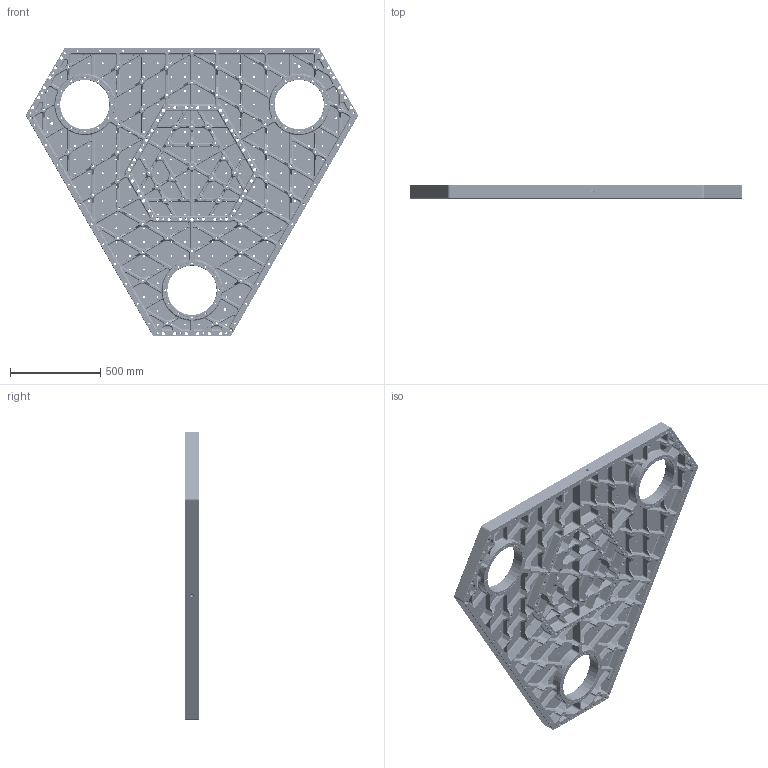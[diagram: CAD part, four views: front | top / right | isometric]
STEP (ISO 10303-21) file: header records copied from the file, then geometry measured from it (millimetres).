
FILE_DESCRIPTION (( 'STEP AP214' ), '1' );
FILE_NAME ('D0901519_Keel_Plate-Up-Facing-BSC_ISI.STEP', '2010-02-17T16:32:12', ( 'LIGO' ), ( 'MIT' ), 'SwSTEP 2.0', 'SolidWorks 2009', '' );
FILE_SCHEMA (( 'AUTOMOTIVE_DESIGN' ));
Length unit declared in the file: inch
Products named in the file (1): D0901519_Keel_Plate-Up-Facing-BSC_ISI
Bounding box: 1839.75 x 76.2 x 1596.67 mm (x, y, z)
Volume: 58833943 mm3; surface area: 7268286.1 mm2
Topology: 1 solids, 1 shells, 7647 faces, 18929 edges, 11520 vertices
Faces by surface type: cylinder 3334, cone 1777, plane 1638, torus 898
Entity records: 235725 total; most frequent: CARTESIAN_POINT 49512, DIRECTION 41793, ORIENTED_EDGE 37746, EDGE_CURVE 18873, AXIS2_PLACEMENT_3D 16732, VERTEX_POINT 11520, CIRCLE 9084, EDGE_LOOP 8865
